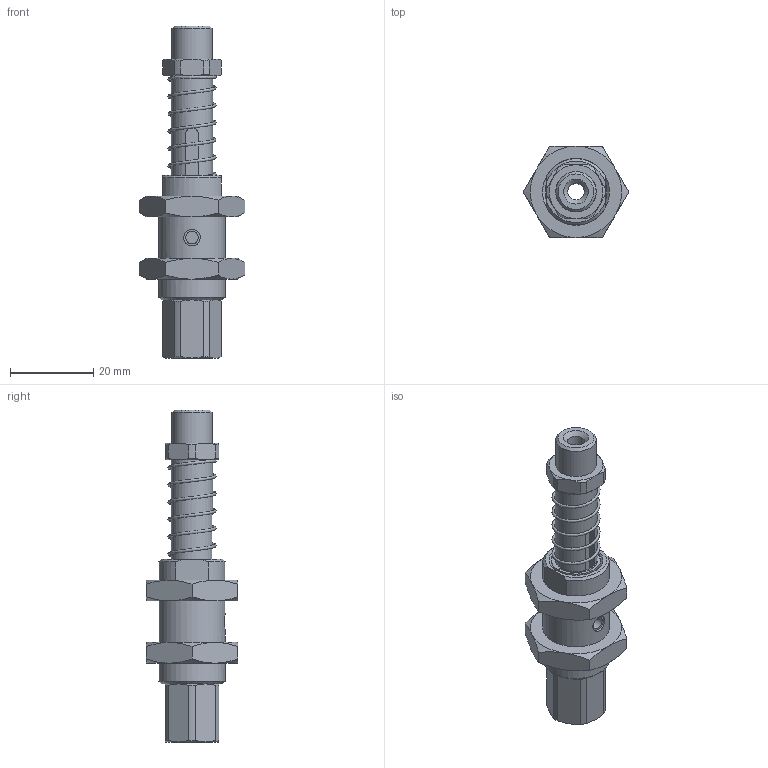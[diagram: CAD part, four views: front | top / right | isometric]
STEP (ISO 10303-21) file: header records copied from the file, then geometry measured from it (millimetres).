
FILE_DESCRIPTION((''),'2;1');
FILE_NAME('W:\Technik\Konstruktion\CAD-Daten\Vakuumkomponenten\50... - 55\50.315\50.315.stp','2012-03-20T15:48:37',('MOswald'),(''),'Autodesk Inventor 2012','Autodesk Inventor 2012','');
FILE_SCHEMA(('AUTOMOTIVE_DESIGN { 1 0 10303 214 1 1 1 1 }'));
Length unit declared in the file: millimetre
Products named in the file (8): 50; JSM-1012-05; D-090W-02
Assembly tree (9 placements, depth 2):
  50
    50
    50
    JSM-1012-05  x2
    50
    50
    50  x2
    D-090W-02
Bounding box: 25.4 x 22 x 80 mm (x, y, z)
Volume: 11861.4 mm3; surface area: 10988.2 mm2
Topology: 9 solids, 9 shells, 152 faces, 328 edges, 200 vertices
Faces by surface type: cone 65, plane 54, cylinder 32, bspline 1
Full cylindrical faces by diameter (mm): 3 x1, 4 x2, 8.566 x2, 9.73 x2, 10 x3, 10.5 x1, 12 x4, 14.917 x2, 16 x1
Entity records: 4214 total; most frequent: CARTESIAN_POINT 1514, DIRECTION 548, ORIENTED_EDGE 480, AXIS2_PLACEMENT_3D 251, EDGE_CURVE 240, EDGE_LOOP 173, VERTEX_POINT 163, FACE_OUTER_BOUND 125
